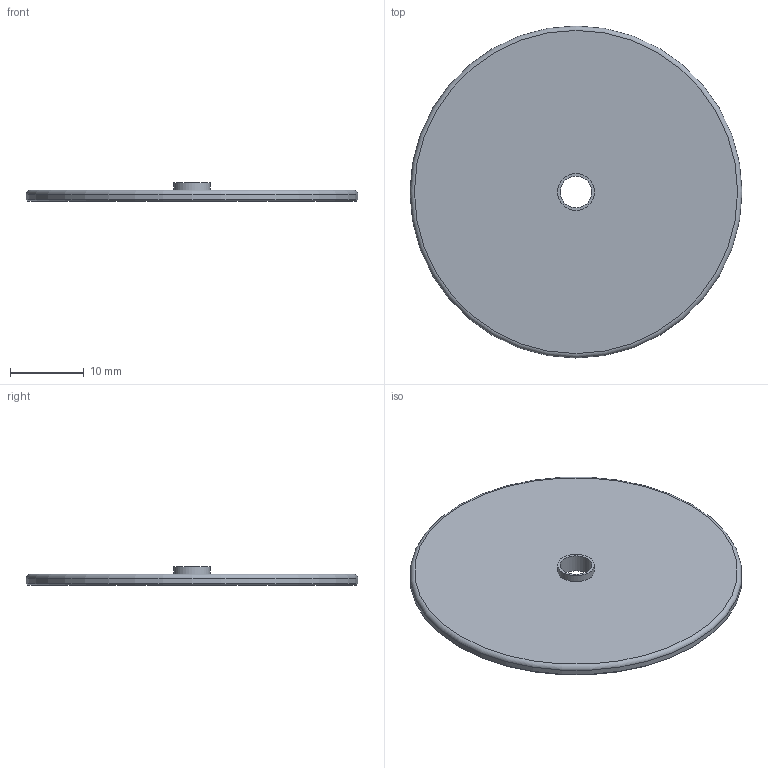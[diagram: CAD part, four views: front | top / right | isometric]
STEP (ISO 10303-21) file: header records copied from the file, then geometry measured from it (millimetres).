
FILE_DESCRIPTION(('Open CASCADE Model'),'2;1');
FILE_NAME('W-ROUND-WR45','2026-10-19T21:23:52',('Author'),( 'Open CASCADE'),'Open CASCADE STEP processor 8.0','build123d', 'Unknown');
FILE_SCHEMA(('AUTOMOTIVE_DESIGN { 1 0 10303 214 1 1 1 1 }'));
Length unit declared in the file: millimetre
Products named in the file (2): W-ROUND-WR45; brass_WR45__w
Assembly tree (1 placements, depth 2):
  W-ROUND-WR45
    brass_WR45__w
Bounding box: 45 x 45 x 2.49 mm (x, y, z)
Volume: 2355.2 mm3; surface area: 3359.9 mm2
Topology: 1 solids, 1 shells, 8 faces, 13 edges, 8 vertices
Faces by surface type: cylinder 3, plane 3, cone 1, torus 1
Full cylindrical faces by diameter (mm): 4.3 x1, 5 x1, 45 x1
Entity records: 387 total; most frequent: DIRECTION 64, CARTESIAN_POINT 61, ORIENTED_EDGE 26, PCURVE 26, DEFINITIONAL_REPRESENTATION 26, LINE 20, VECTOR 20, AXIS2_PLACEMENT_3D 19
